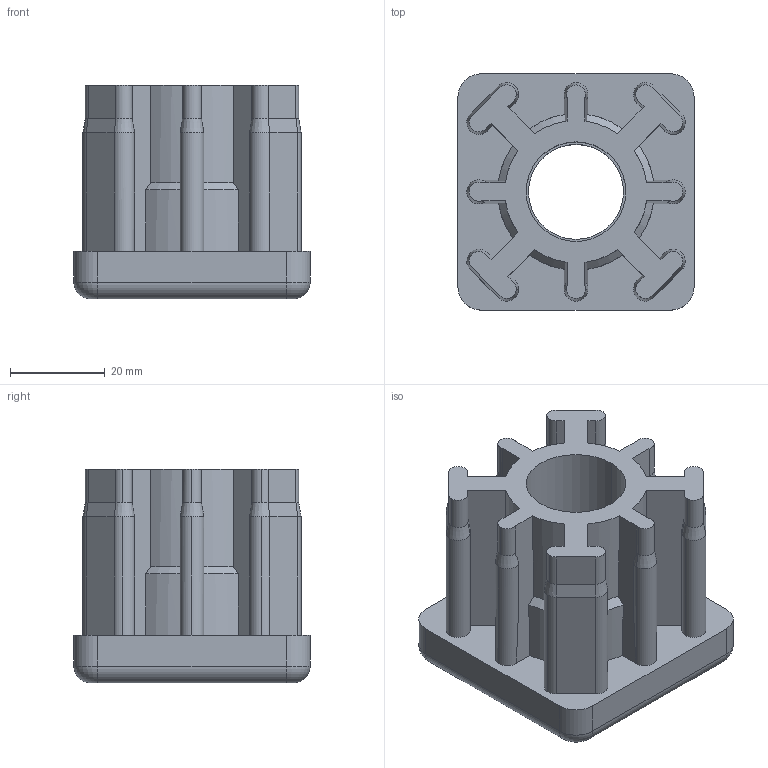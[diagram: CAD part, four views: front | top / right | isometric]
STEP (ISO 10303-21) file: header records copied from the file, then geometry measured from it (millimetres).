
FILE_DESCRIPTION (( 'STEP AP214' ), '1' );
FILE_NAME ('42006850320.STEP', '2020-02-26T11:27:12', ( '' ), ( '' ), 'SwSTEP 2.0', 'SolidWorks 2018', '' );
FILE_SCHEMA (( 'AUTOMOTIVE_DESIGN' ));
Length unit declared in the file: millimetre
Products named in the file (1): 42006850320
Bounding box: 49.8 x 49.8 x 45 mm (x, y, z)
Volume: 53083 mm3; surface area: 22166.7 mm2
Topology: 2 solids, 2 shells, 180 faces, 466 edges, 292 vertices
Faces by surface type: cylinder 74, plane 70, cone 32, torus 4
Entity records: 5633 total; most frequent: CARTESIAN_POINT 1243, ORIENTED_EDGE 932, DIRECTION 916, EDGE_CURVE 466, AXIS2_PLACEMENT_3D 341, VERTEX_POINT 292, LINE 234, VECTOR 234
